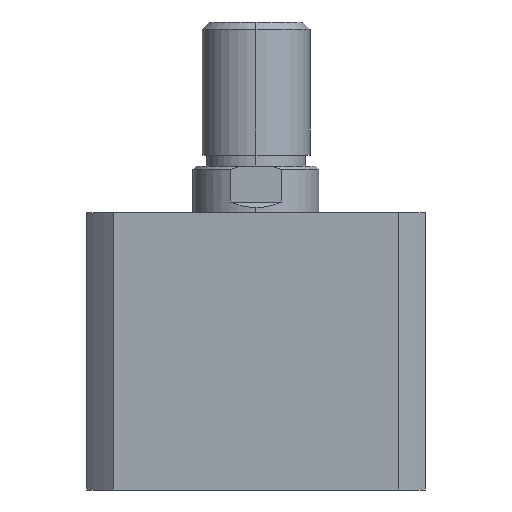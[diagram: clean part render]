
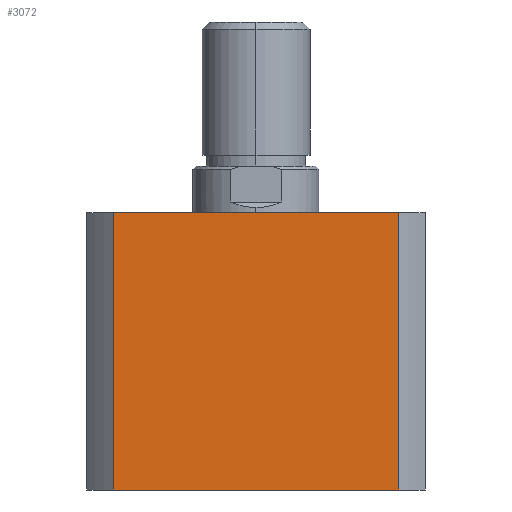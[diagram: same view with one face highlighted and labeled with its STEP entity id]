
A CAD part, left-side view. The second image highlights one B-rep face of the part: STEP entity #3072.
In plain terms, the highlighted planar face has unit normal (-1, 0, 0).
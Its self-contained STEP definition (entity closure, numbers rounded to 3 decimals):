
#193 = CARTESIAN_POINT ( 'NONE',  ( -47., -39.664, 77. ) ) ;
#194 = CARTESIAN_POINT ( 'NONE',  ( -47., 39.664, 77. ) ) ;
#384 = CARTESIAN_POINT ( 'NONE',  ( -47., 0., 77. ) ) ;
#389 = PLANE ( 'NONE',  #2896 ) ;
#392 = DIRECTION ( 'NONE',  ( 1., 0., 0. ) ) ;
#393 = DIRECTION ( 'NONE',  ( 0., 0., -1. ) ) ;
#706 = EDGE_CURVE ( 'NONE', #2127, #2126, #4221, .T. ) ;
#1346 = LINE ( 'NONE', #1550, #1352 ) ;
#1348 = LINE ( 'NONE', #1548, #1350 ) ;
#1350 = VECTOR ( 'NONE', #1541, 1000. ) ;
#1351 = LINE ( 'NONE', #1556, #1354 ) ;
#1352 = VECTOR ( 'NONE', #1555, 1000. ) ;
#1354 = VECTOR ( 'NONE', #1558, 1000. ) ;
#1541 = DIRECTION ( 'NONE',  ( 0., 0., -1. ) ) ;
#1548 = CARTESIAN_POINT ( 'NONE',  ( -47., 39.664, 77. ) ) ;
#1550 = CARTESIAN_POINT ( 'NONE',  ( -47., 0., 0. ) ) ;
#1555 = DIRECTION ( 'NONE',  ( 0., -1., 0. ) ) ;
#1556 = CARTESIAN_POINT ( 'NONE',  ( -47., -39.664, 77. ) ) ;
#1558 = DIRECTION ( 'NONE',  ( 0., 0., -1. ) ) ;
#1870 = ORIENTED_EDGE ( 'NONE', *, *, #4247, .T. ) ;
#1914 = ORIENTED_EDGE ( 'NONE', *, *, #706, .F. ) ;
#1989 = EDGE_LOOP ( 'NONE', ( #1870, #2062, #1914, #2203 ) ) ;
#2062 = ORIENTED_EDGE ( 'NONE', *, *, #4248, .F. ) ;
#2105 = VERTEX_POINT ( 'NONE', #2847 ) ;
#2106 = VERTEX_POINT ( 'NONE', #2848 ) ;
#2126 = VERTEX_POINT ( 'NONE', #193 ) ;
#2127 = VERTEX_POINT ( 'NONE', #194 ) ;
#2203 = ORIENTED_EDGE ( 'NONE', *, *, #4246, .T. ) ;
#2847 = CARTESIAN_POINT ( 'NONE',  ( -47., -39.664, 0. ) ) ;
#2848 = CARTESIAN_POINT ( 'NONE',  ( -47., 39.664, 0. ) ) ;
#2896 = AXIS2_PLACEMENT_3D ( 'NONE', #384, #392, #393 ) ;
#3072 = ADVANCED_FACE ( 'NONE', ( #4886 ), #389, .F. ) ;
#3680 = DIRECTION ( 'NONE',  ( 0., -1., 0. ) ) ;
#3685 = CARTESIAN_POINT ( 'NONE',  ( -47., 0., 77. ) ) ;
#4221 = LINE ( 'NONE', #3685, #4223 ) ;
#4223 = VECTOR ( 'NONE', #3680, 1000. ) ;
#4246 = EDGE_CURVE ( 'NONE', #2127, #2106, #1348, .T. ) ;
#4247 = EDGE_CURVE ( 'NONE', #2106, #2105, #1346, .T. ) ;
#4248 = EDGE_CURVE ( 'NONE', #2126, #2105, #1351, .T. ) ;
#4886 = FACE_OUTER_BOUND ( 'NONE', #1989, .T. ) ;
